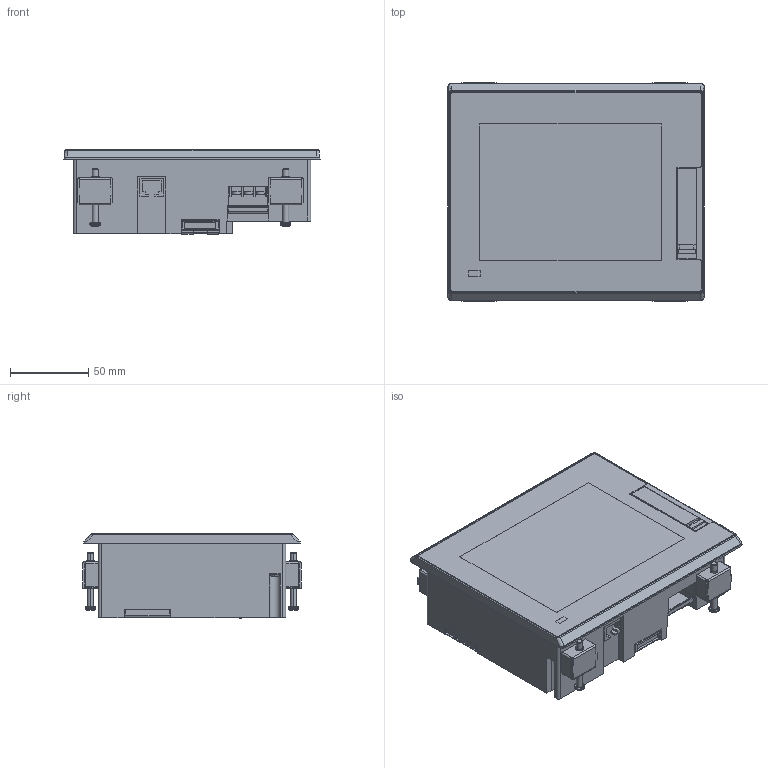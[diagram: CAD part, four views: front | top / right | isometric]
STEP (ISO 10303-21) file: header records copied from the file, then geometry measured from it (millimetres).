
FILE_DESCRIPTION((''),'2;1');
FILE_NAME('GT2505_WEB_3D_ASM','2017-07-13T',('PX55309'),(''),'PRO/ENGINEER BY PARAMETRIC TECHNOLOGY CORPORATION, 2014310','PRO/ENGINEER BY PARAMETRIC TECHNOLOGY CORPORATION, 2014310','');
FILE_SCHEMA(('CONFIG_CONTROL_DESIGN'));
Length unit declared in the file: millimetre
Products named in the file (9): GT2505_01; COVER01_GT2505; COVER02_GT2505; COVER03_GT2505; COVER04_GT2505; KANAGU01_GT2505; NEJI01_GT2505; KANAGU01_ASSY_GT2505_ASM; GT2505_WEB_3D_ASM
Assembly tree (11 placements, depth 3):
  GT2505_WEB_3D_ASM
    GT2505_01
    COVER01_GT2505
    COVER02_GT2505
    COVER03_GT2505
    COVER04_GT2505
    KANAGU01_ASSY_GT2505_ASM  x4
      KANAGU01_GT2505
      NEJI01_GT2505
Bounding box: 164 x 140 x 54.4 mm (x, y, z)
Volume: 883374.1 mm3; surface area: 101592.8 mm2
Topology: 13 solids, 13 shells, 748 faces, 2001 edges, 1312 vertices
Faces by surface type: plane 481, cylinder 177, torus 36, extrusion 24, bspline 12, sphere 10, cone 8
Entity records: 21759 total; most frequent: CARTESIAN_POINT 7926, ORIENTED_EDGE 2878, DIRECTION 2765, EDGE_CURVE 1439, VECTOR 1061, LINE 1049, VERTEX_POINT 943, AXIS2_PLACEMENT_3D 852
